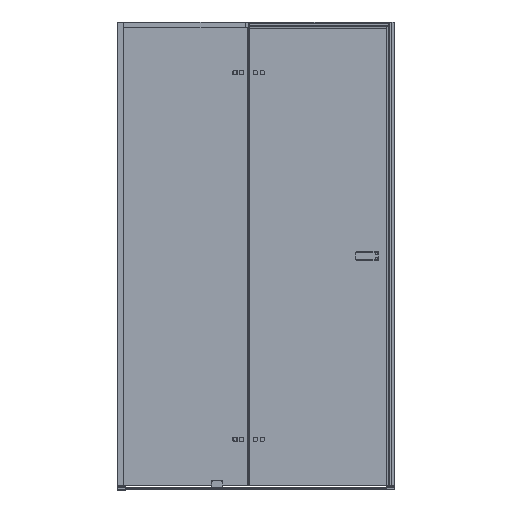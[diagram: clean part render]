
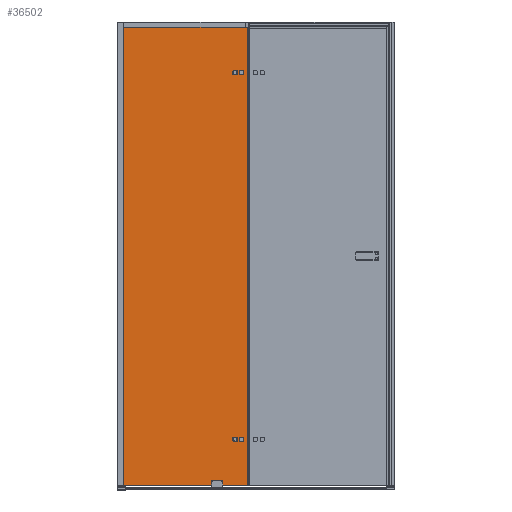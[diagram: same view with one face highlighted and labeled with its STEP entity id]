
A CAD part, front view. The second image highlights one B-rep face of the part: STEP entity #36502.
In plain terms, the highlighted planar face has unit normal (0, -1, 0) as drawn and (0, 1, 0) by its records, which use the part's own axes.
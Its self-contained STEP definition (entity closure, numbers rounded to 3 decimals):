
#454 = FACE_BOUND ( 'NONE', #34990, .T. ) ;
#458 = FACE_BOUND ( 'NONE', #34986, .T. ) ;
#460 = FACE_BOUND ( 'NONE', #34997, .T. ) ;
#462 = FACE_BOUND ( 'NONE', #34989, .T. ) ;
#464 = FACE_OUTER_BOUND ( 'NONE', #34985, .T. ) ;
#7092 = DIRECTION ( 'NONE',  ( 0., -1., 0. ) ) ;
#7094 = PLANE ( 'NONE',  #44978 ) ;
#7096 = CARTESIAN_POINT ( 'NONE',  ( -272.5, 4., 991. ) ) ;
#7098 = DIRECTION ( 'NONE',  ( 0., 0., -1. ) ) ;
#14736 = CIRCLE ( 'NONE', #15121, 10. ) ;
#14742 = CIRCLE ( 'NONE', #15122, 10. ) ;
#14745 = CIRCLE ( 'NONE', #15123, 10. ) ;
#14747 = CIRCLE ( 'NONE', #15124, 10. ) ;
#14749 = LINE ( 'NONE', #17194, #14752 ) ;
#14750 = LINE ( 'NONE', #17193, #14754 ) ;
#14752 = VECTOR ( 'NONE', #17189, 1000. ) ;
#14754 = VECTOR ( 'NONE', #17199, 1000. ) ;
#15121 = AXIS2_PLACEMENT_3D ( 'NONE', #17177, #17178, #17179 ) ;
#15122 = AXIS2_PLACEMENT_3D ( 'NONE', #17184, #17185, #17186 ) ;
#15123 = AXIS2_PLACEMENT_3D ( 'NONE', #17190, #17191, #17192 ) ;
#15124 = AXIS2_PLACEMENT_3D ( 'NONE', #17195, #17196, #17197 ) ;
#15168 = AXIS2_PLACEMENT_3D ( 'NONE', #17481, #17482, #17483 ) ;
#15169 = AXIS2_PLACEMENT_3D ( 'NONE', #17486, #17487, #17488 ) ;
#15187 = AXIS2_PLACEMENT_3D ( 'NONE', #18846, #18847, #18848 ) ;
#15188 = AXIS2_PLACEMENT_3D ( 'NONE', #18851, #18852, #18853 ) ;
#17177 = CARTESIAN_POINT ( 'NONE',  ( 215.5, 4., -791. ) ) ;
#17178 = DIRECTION ( 'NONE',  ( 0., -1., 0. ) ) ;
#17179 = DIRECTION ( 'NONE',  ( 0., 0., 1. ) ) ;
#17184 = CARTESIAN_POINT ( 'NONE',  ( 245.5, 4., -791. ) ) ;
#17185 = DIRECTION ( 'NONE',  ( 0., -1., 0. ) ) ;
#17186 = DIRECTION ( 'NONE',  ( 0., 0., 1. ) ) ;
#17189 = DIRECTION ( 'NONE',  ( -1., 0., 0. ) ) ;
#17190 = CARTESIAN_POINT ( 'NONE',  ( 215.5, 4., 791. ) ) ;
#17191 = DIRECTION ( 'NONE',  ( 0., -1., 0. ) ) ;
#17192 = DIRECTION ( 'NONE',  ( 0., 0., 1. ) ) ;
#17193 = CARTESIAN_POINT ( 'NONE',  ( 272.5, 4., 991. ) ) ;
#17194 = CARTESIAN_POINT ( 'NONE',  ( 0., 4., 991. ) ) ;
#17195 = CARTESIAN_POINT ( 'NONE',  ( 245.5, 4., 791. ) ) ;
#17196 = DIRECTION ( 'NONE',  ( 0., -1., 0. ) ) ;
#17197 = DIRECTION ( 'NONE',  ( 0., 0., 1. ) ) ;
#17199 = DIRECTION ( 'NONE',  ( 0., 0., -1. ) ) ;
#17479 = CARTESIAN_POINT ( 'NONE',  ( 0., 4., -991. ) ) ;
#17480 = DIRECTION ( 'NONE',  ( -1., 0., 0. ) ) ;
#17481 = CARTESIAN_POINT ( 'NONE',  ( 215.5, 4., -791. ) ) ;
#17482 = DIRECTION ( 'NONE',  ( 0., -1., 0. ) ) ;
#17483 = DIRECTION ( 'NONE',  ( 0., 0., 1. ) ) ;
#17486 = CARTESIAN_POINT ( 'NONE',  ( 245.5, 4., -791. ) ) ;
#17487 = DIRECTION ( 'NONE',  ( 0., -1., 0. ) ) ;
#17488 = DIRECTION ( 'NONE',  ( 0., 0., 1. ) ) ;
#17489 = CARTESIAN_POINT ( 'NONE',  ( -272.5, 4., 991. ) ) ;
#17490 = DIRECTION ( 'NONE',  ( 0., 0., 1. ) ) ;
#17615 = CIRCLE ( 'NONE', #15168, 10. ) ;
#17626 = CIRCLE ( 'NONE', #15169, 10. ) ;
#17627 = LINE ( 'NONE', #17479, #17629 ) ;
#17628 = LINE ( 'NONE', #17489, #17631 ) ;
#17629 = VECTOR ( 'NONE', #17480, 1000. ) ;
#17631 = VECTOR ( 'NONE', #17490, 1000. ) ;
#17703 = CIRCLE ( 'NONE', #15187, 10. ) ;
#17708 = CIRCLE ( 'NONE', #15188, 10. ) ;
#18846 = CARTESIAN_POINT ( 'NONE',  ( 215.5, 4., 791. ) ) ;
#18847 = DIRECTION ( 'NONE',  ( 0., -1., 0. ) ) ;
#18848 = DIRECTION ( 'NONE',  ( 0., 0., 1. ) ) ;
#18851 = CARTESIAN_POINT ( 'NONE',  ( 245.5, 4., 791. ) ) ;
#18852 = DIRECTION ( 'NONE',  ( 0., -1., 0. ) ) ;
#18853 = DIRECTION ( 'NONE',  ( 0., 0., 1. ) ) ;
#31395 = ORIENTED_EDGE ( 'NONE', *, *, #37954, .T. ) ;
#31396 = ORIENTED_EDGE ( 'NONE', *, *, #38059, .T. ) ;
#31397 = ORIENTED_EDGE ( 'NONE', *, *, #38060, .T. ) ;
#31398 = ORIENTED_EDGE ( 'NONE', *, *, #37951, .T. ) ;
#31399 = ORIENTED_EDGE ( 'NONE', *, *, #38126, .T. ) ;
#31400 = ORIENTED_EDGE ( 'NONE', *, *, #37952, .T. ) ;
#31401 = ORIENTED_EDGE ( 'NONE', *, *, #37953, .F. ) ;
#31402 = ORIENTED_EDGE ( 'NONE', *, *, #38057, .T. ) ;
#31403 = ORIENTED_EDGE ( 'NONE', *, *, #37948, .T. ) ;
#31404 = ORIENTED_EDGE ( 'NONE', *, *, #38058, .T. ) ;
#31405 = ORIENTED_EDGE ( 'NONE', *, *, #38123, .T. ) ;
#31410 = ORIENTED_EDGE ( 'NONE', *, *, #37945, .T. ) ;
#32339 = CARTESIAN_POINT ( 'NONE',  ( -272.5, 4., -991. ) ) ;
#32340 = CARTESIAN_POINT ( 'NONE',  ( 272.5, 4., -991. ) ) ;
#32343 = CARTESIAN_POINT ( 'NONE',  ( -272.5, 4., 991. ) ) ;
#32344 = CARTESIAN_POINT ( 'NONE',  ( 245.5, 4., 801. ) ) ;
#32345 = CARTESIAN_POINT ( 'NONE',  ( 245.5, 4., 781. ) ) ;
#32346 = CARTESIAN_POINT ( 'NONE',  ( 215.5, 4., 801. ) ) ;
#32347 = CARTESIAN_POINT ( 'NONE',  ( 215.5, 4., 781. ) ) ;
#32348 = CARTESIAN_POINT ( 'NONE',  ( 245.5, 4., -781. ) ) ;
#32349 = CARTESIAN_POINT ( 'NONE',  ( 245.5, 4., -801. ) ) ;
#32350 = CARTESIAN_POINT ( 'NONE',  ( 215.5, 4., -781. ) ) ;
#32351 = CARTESIAN_POINT ( 'NONE',  ( 215.5, 4., -801. ) ) ;
#32377 = CARTESIAN_POINT ( 'NONE',  ( 272.5, 4., 991. ) ) ;
#34088 = VERTEX_POINT ( 'NONE', #32339 ) ;
#34089 = VERTEX_POINT ( 'NONE', #32340 ) ;
#34092 = VERTEX_POINT ( 'NONE', #32343 ) ;
#34093 = VERTEX_POINT ( 'NONE', #32344 ) ;
#34094 = VERTEX_POINT ( 'NONE', #32345 ) ;
#34095 = VERTEX_POINT ( 'NONE', #32346 ) ;
#34096 = VERTEX_POINT ( 'NONE', #32347 ) ;
#34097 = VERTEX_POINT ( 'NONE', #32348 ) ;
#34098 = VERTEX_POINT ( 'NONE', #32349 ) ;
#34099 = VERTEX_POINT ( 'NONE', #32350 ) ;
#34100 = VERTEX_POINT ( 'NONE', #32351 ) ;
#34119 = VERTEX_POINT ( 'NONE', #32377 ) ;
#34985 = EDGE_LOOP ( 'NONE', ( #31401, #31395, #31396, #31397 ) ) ;
#34986 = EDGE_LOOP ( 'NONE', ( #31399, #31400 ) ) ;
#34989 = EDGE_LOOP ( 'NONE', ( #31403, #31404 ) ) ;
#34990 = EDGE_LOOP ( 'NONE', ( #31410, #31402 ) ) ;
#34997 = EDGE_LOOP ( 'NONE', ( #31405, #31398 ) ) ;
#36502 = ADVANCED_FACE ( 'N', ( #454, #462, #460, #458, #464 ), #7094, .F. ) ;
#37945 = EDGE_CURVE ( 'NONE', #34099, #34100, #14736, .T. ) ;
#37948 = EDGE_CURVE ( 'NONE', #34097, #34098, #14742, .T. ) ;
#37951 = EDGE_CURVE ( 'NONE', #34096, #34095, #14745, .T. ) ;
#37952 = EDGE_CURVE ( 'NONE', #34094, #34093, #14747, .T. ) ;
#37953 = EDGE_CURVE ( 'NONE', #34119, #34092, #14749, .T. ) ;
#37954 = EDGE_CURVE ( 'NONE', #34119, #34089, #14750, .T. ) ;
#38057 = EDGE_CURVE ( 'NONE', #34100, #34099, #17615, .T. ) ;
#38058 = EDGE_CURVE ( 'NONE', #34098, #34097, #17626, .T. ) ;
#38059 = EDGE_CURVE ( 'NONE', #34089, #34088, #17627, .T. ) ;
#38060 = EDGE_CURVE ( 'NONE', #34088, #34092, #17628, .T. ) ;
#38123 = EDGE_CURVE ( 'NONE', #34095, #34096, #17703, .T. ) ;
#38126 = EDGE_CURVE ( 'NONE', #34093, #34094, #17708, .T. ) ;
#44978 = AXIS2_PLACEMENT_3D ( 'NONE', #7096, #7092, #7098 ) ;
